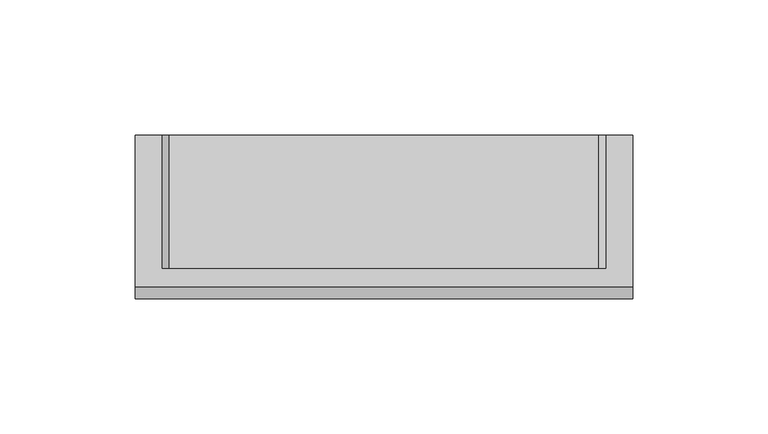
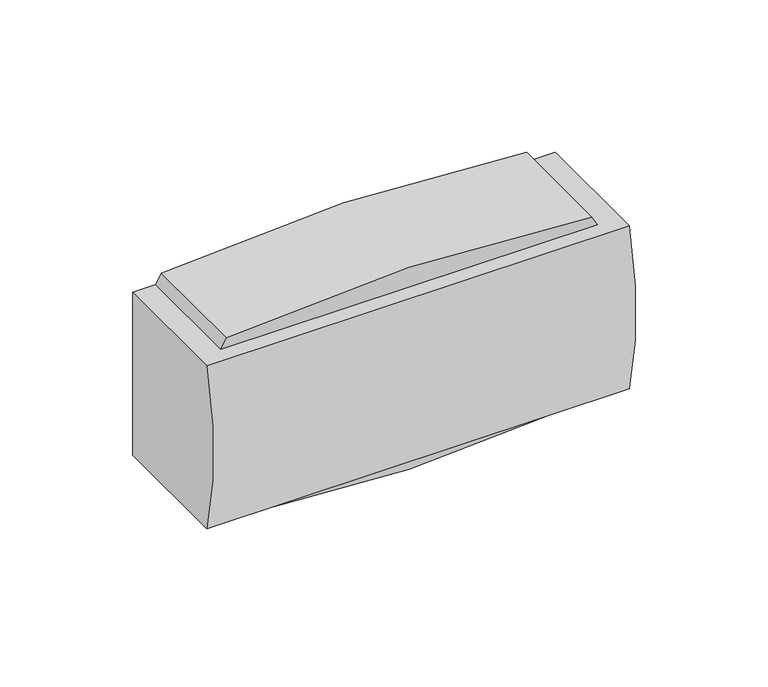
"""IFC4 building model written with IfcOpenShell, lengths in millimetres: proxy geometry, КНС_КоробкаРаспределительнаяНастеннаяBrava_ILF_DKC : Коробка распределительная настенная Brava_ILF_DKC."""

from ifc_helpers import new_model, si_unit, point, frame, frame_2d, origin, place, context, project, spatial, polyline, circle_curve, trimmed, segment, composite_curve, outline, extrude, source, transform, mapped, element, save


def electrical_fixtures_1e663ce1(model_context):
    return source(origin(), model_context, "Body", "SweptSolid", [
        extrude(outline(composite_curve([segment(polyline([(37.5, 82.0), (41.830127, 79.5)]), True, "CONTINUOUS"), segment(trimmed(circle_curve(frame_2d((-632.5396376, 0.0)), 679.0396376), [point((41.830127, 79.5))], [point((41.830127, -79.5))], False, "CARTESIAN"), True, "CONTINUOUS"), segment(polyline([(41.830127, -79.5), (37.5, -82.0), (37.5, 82.0)]), True, "CONTINUOUS")], self_intersect=False)), frame((0.0, -49.182494, 0.0), z_axis=(0.0, 1.0, 0.0), x_axis=(0.0, 0.0, 1.0)), (0.0, 0.0, 1.0), 49.182494),
        extrude(outline(composite_curve([segment(polyline([(-37.5, 82.0), (-37.5, -82.0), (-41.830127, -79.5)]), True, "CONTINUOUS"), segment(trimmed(circle_curve(frame_2d((632.5396376, 0.0)), 679.0396376), [point((-41.830127, -79.5))], [point((-41.830127, 79.5))], False, "CARTESIAN"), True, "CONTINUOUS"), segment(polyline([(-41.830127, 79.5), (-37.5, 82.0)]), True, "CONTINUOUS")], self_intersect=False)), frame((0.0, -49.182494, 0.0), z_axis=(0.0, 1.0, 0.0), x_axis=(0.0, 0.0, 1.0)), (0.0, 0.0, 1.0), 49.182494),
        extrude(outline(composite_curve([segment(polyline([(0.0, -37.5), (-56.0, -37.5)]), True, "CONTINUOUS"), segment(trimmed(circle_curve(frame_2d((82.125, 0.0)), 143.125), [point((-56.0, -37.5))], [point((-56.0, 37.5))], False, "CARTESIAN"), True, "CONTINUOUS"), segment(polyline([(-56.0, 37.5), (0.0, 37.5), (0.0, -37.5)]), True, "CONTINUOUS")], self_intersect=False)), frame((-92.0, 0.0, 0.0), z_axis=(1.0, 0.0, 0.0), x_axis=(0.0, 1.0, 0.0)), (0.0, 0.0, 1.0), 184.0),
    ])


if __name__ == "__main__":
    model = new_model("IFC4")
    model_context = context("Model", 3, world=origin())
    ifc_project = project(units=[si_unit("LENGTHUNIT", "METRE", prefix="MILLI")], contexts=[model_context])
    site = spatial("IfcSite", under=ifc_project)
    building = spatial("IfcBuilding", under=site)
    placement = place(None, origin())
    electrical_fixtures_shape = electrical_fixtures_1e663ce1(model_context)
    element("IfcBuildingElementProxy", 1, Name="КНС_КоробкаРаспределительнаяНастеннаяBrava_ILF_DKC : Коробка распределительная настенная Brava_ILF_DKC", ObjectType="КНС_КоробкаРаспределительнаяНастеннаяBrava_ILF_DKC : Коробка распределительная настенная Brava_ILF_DKC", at=placement, inside=building, context=model_context, shape_type="MappedRepresentation", body=[
        mapped(electrical_fixtures_shape, transform((0.0, 0.0, 0.0), x_axis=(1.0, 0.0, 0.0), y_axis=(0.0, 1.0, 0.0), z_axis=(0.0, 0.0, 1.0))),
    ])
    save(model, "model.ifc")
